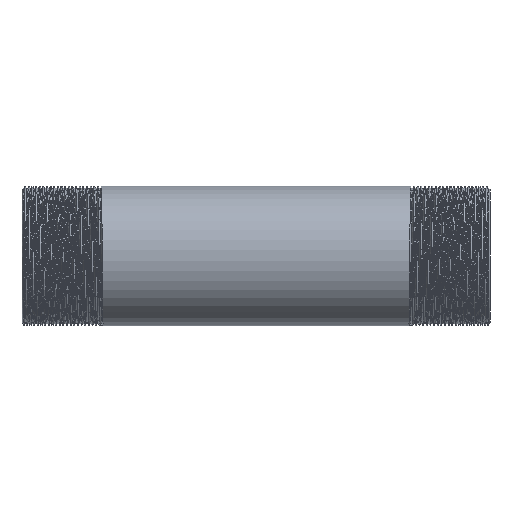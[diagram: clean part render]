
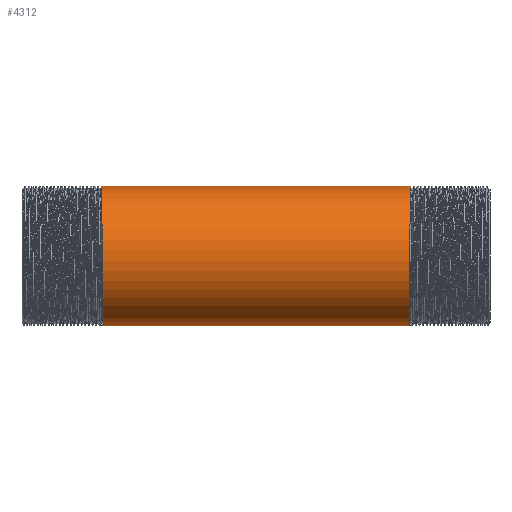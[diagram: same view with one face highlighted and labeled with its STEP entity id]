
A CAD part, front view. The second image highlights one B-rep face of the part: STEP entity #4312.
In plain terms, the highlighted cylindrical face has radius 13.45 mm (diameter 26.9 mm), a partial arc.
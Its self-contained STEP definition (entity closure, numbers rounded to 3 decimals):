
#93 = DIRECTION ( 'NONE',  ( 0., 0., 1. ) ) ;
#137 = CARTESIAN_POINT ( 'NONE',  ( -29.446, -7.765, -13.45 ) ) ;
#329 = CARTESIAN_POINT ( 'NONE',  ( 29.738, 0., 13.45 ) ) ;
#330 = DIRECTION ( 'NONE',  ( -1., 0., 0. ) ) ;
#489 = EDGE_LOOP ( 'NONE', ( #8959, #13320, #7310, #12557 ) ) ;
#533 = DIRECTION ( 'NONE',  ( -1., 0., 0. ) ) ;
#1300 = CARTESIAN_POINT ( 'NONE',  ( -29.738, 0., 13.45 ) ) ;
#1631 = CARTESIAN_POINT ( 'NONE',  ( 29.388, 0., -13.45 ) ) ;
#2002 = VERTEX_POINT ( 'NONE', #5432 ) ;
#2815 = CARTESIAN_POINT ( 'NONE',  ( 29.563, -15.531, 0. ) ) ;
#2887 = EDGE_CURVE ( 'NONE', #12589, #11300, #15339, .T. ) ;
#3443 = VERTEX_POINT ( 'NONE', #1300 ) ;
#4312 = ADVANCED_FACE ( 'NONE', ( #13077 ), #12999, .T. ) ;
#4594 = CARTESIAN_POINT ( 'NONE',  ( -29.738, 0., 13.45 ) ) ;
#5316 = CARTESIAN_POINT ( 'NONE',  ( 29.504, -11.648, -6.725 ) ) ;
#5432 = CARTESIAN_POINT ( 'NONE',  ( -29.388, 0., -13.45 ) ) ;
#6369 = AXIS2_PLACEMENT_3D ( 'NONE', #7906, #330, #93 ) ;
#6383 =( BOUNDED_CURVE ( )  B_SPLINE_CURVE ( 2, ( #11555, #137, #9039, #13041, #14133, #7106, #4594 ),
 .UNSPECIFIED., .F., .F. ) 
 B_SPLINE_CURVE_WITH_KNOTS ( ( 3, 2, 2, 3 ),
 ( 0., 0.006, 0.011, 0.017 ),
 .UNSPECIFIED. ) 
 CURVE ( )  GEOMETRIC_REPRESENTATION_ITEM ( )  RATIONAL_B_SPLINE_CURVE ( ( 1., 0.866, 1., 0.866, 1., 0.866, 1. ) ) 
 REPRESENTATION_ITEM ( '' )  );
#6502 = CARTESIAN_POINT ( 'NONE',  ( 29.679, -7.765, 13.45 ) ) ;
#7106 = CARTESIAN_POINT ( 'NONE',  ( -29.679, -7.765, 13.45 ) ) ;
#7310 = ORIENTED_EDGE ( 'NONE', *, *, #8260, .T. ) ;
#7471 = VECTOR ( 'NONE', #14399, 1000. ) ;
#7906 = CARTESIAN_POINT ( 'NONE',  ( -149.494, 0., 0. ) ) ;
#8260 = EDGE_CURVE ( 'NONE', #11300, #3443, #14480, .T. ) ;
#8271 = LINE ( 'NONE', #13528, #15890 ) ;
#8959 = ORIENTED_EDGE ( 'NONE', *, *, #10551, .F. ) ;
#8997 = CARTESIAN_POINT ( 'NONE',  ( 29.388, 0., -13.45 ) ) ;
#9039 = CARTESIAN_POINT ( 'NONE',  ( -29.504, -11.648, -6.725 ) ) ;
#10531 = EDGE_CURVE ( 'NONE', #2002, #3443, #6383, .T. ) ;
#10551 = EDGE_CURVE ( 'NONE', #12589, #2002, #8271, .T. ) ;
#11300 = VERTEX_POINT ( 'NONE', #15076 ) ;
#11555 = CARTESIAN_POINT ( 'NONE',  ( -29.388, 0., -13.45 ) ) ;
#11742 = CARTESIAN_POINT ( 'NONE',  ( 29.446, -7.765, -13.45 ) ) ;
#12557 = ORIENTED_EDGE ( 'NONE', *, *, #10531, .F. ) ;
#12589 = VERTEX_POINT ( 'NONE', #1631 ) ;
#12998 = CARTESIAN_POINT ( 'NONE',  ( 29.621, -11.648, 6.725 ) ) ;
#12999 = CYLINDRICAL_SURFACE ( 'NONE', #6369, 13.45 ) ;
#13041 = CARTESIAN_POINT ( 'NONE',  ( -29.563, -15.531, 0. ) ) ;
#13077 = FACE_OUTER_BOUND ( 'NONE', #489, .T. ) ;
#13320 = ORIENTED_EDGE ( 'NONE', *, *, #2887, .T. ) ;
#13528 = CARTESIAN_POINT ( 'NONE',  ( -149.494, 0., -13.45 ) ) ;
#14133 = CARTESIAN_POINT ( 'NONE',  ( -29.621, -11.648, 6.725 ) ) ;
#14399 = DIRECTION ( 'NONE',  ( -1., 0., 0. ) ) ;
#14480 = LINE ( 'NONE', #15646, #7471 ) ;
#15076 = CARTESIAN_POINT ( 'NONE',  ( 29.738, 0., 13.45 ) ) ;
#15339 =( BOUNDED_CURVE ( )  B_SPLINE_CURVE ( 2, ( #8997, #11742, #5316, #2815, #12998, #6502, #329 ),
 .UNSPECIFIED., .F., .F. ) 
 B_SPLINE_CURVE_WITH_KNOTS ( ( 3, 2, 2, 3 ),
 ( 0., 0.006, 0.011, 0.017 ),
 .UNSPECIFIED. ) 
 CURVE ( )  GEOMETRIC_REPRESENTATION_ITEM ( )  RATIONAL_B_SPLINE_CURVE ( ( 1., 0.866, 1., 0.866, 1., 0.866, 1. ) ) 
 REPRESENTATION_ITEM ( '' )  );
#15646 = CARTESIAN_POINT ( 'NONE',  ( -149.494, 0., 13.45 ) ) ;
#15890 = VECTOR ( 'NONE', #533, 1000. ) ;
